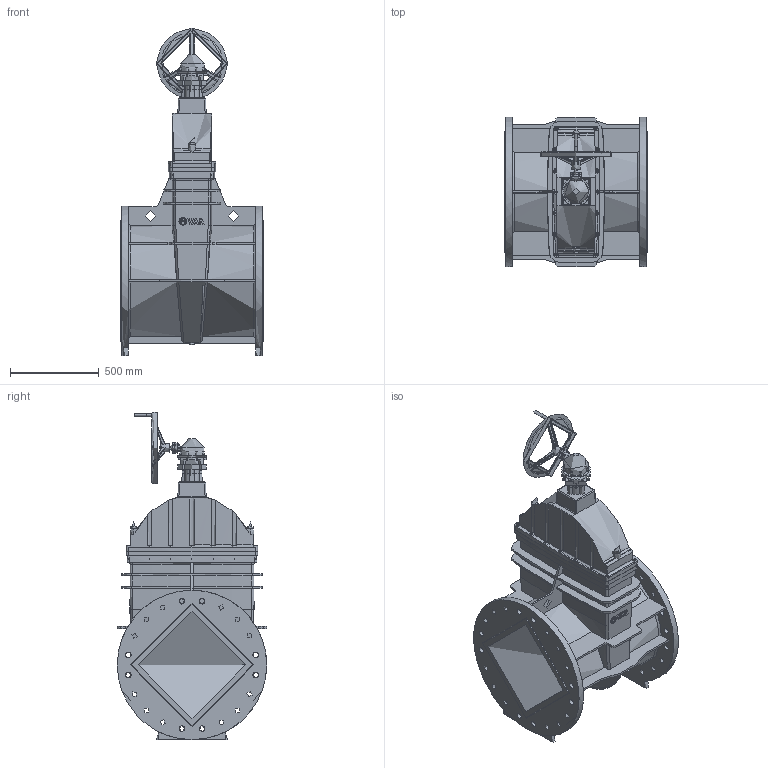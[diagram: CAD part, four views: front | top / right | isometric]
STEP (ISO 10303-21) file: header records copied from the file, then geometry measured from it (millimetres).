
FILE_DESCRIPTION(('STEP AP242'), '1');
FILE_NAME('青溻桄赅', '', ('UNSPECIFIED'), ('UNSPECIFIED'), 'C3D Converter', 'C3D Toolkit', '');
FILE_SCHEMA(('AP242_MANAGED_MODEL_BASED_3D_ENGINEERING_MIM_LF { 1 0 10303 442 1 1 4 }'));
Length unit declared in the file: millimetre
Assembly tree (40 placements, depth 2):
  (unnamed)
    (unnamed)
    (unnamed)
    (unnamed)
    (unnamed)  x2
    (unnamed)
    (unnamed)
    (unnamed)
    (unnamed)
    (unnamed)
    (unnamed)  x15
    (unnamed)  x4
    (unnamed)  x8
    (unnamed)
    (unnamed)  x2
Bounding box: 800 x 840 x 1840 mm (x, y, z)
Topology: 47 solids, 47 shells, 1842 faces, 4448 edges, 2797 vertices
Faces by surface type: plane 884, cylinder 478, cone 168, extrusion 159, bspline 87, torus 66
Full cylindrical faces by diameter (mm): 3 x8, 4 x32, 6 x7, 7 x8, 8 x12, 10 x15, 12 x65, 13 x4, 16 x4, 18 x33, 20 x5, 29 x1, 31 x40, 35 x9, 40 x1, 42.768 x1, 50 x1, 59 x5, 60 x4, 116.402 x2, 137.765 x1, 159.128 x3, 340 x1, 350 x1, 390 x1, 400 x1, 564 x2, 600 x4, 643.2 x4, 672 x1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
Entity records: 73278 total; most frequent: CARTESIAN_POINT 40312, ORIENTED_EDGE 5900, DIRECTION 5468, EDGE_CURVE 2950, AXIS2_PLACEMENT_3D 2060, VERTEX_POINT 2054, EDGE_LOOP 1834, FACE_BOUND 1367
